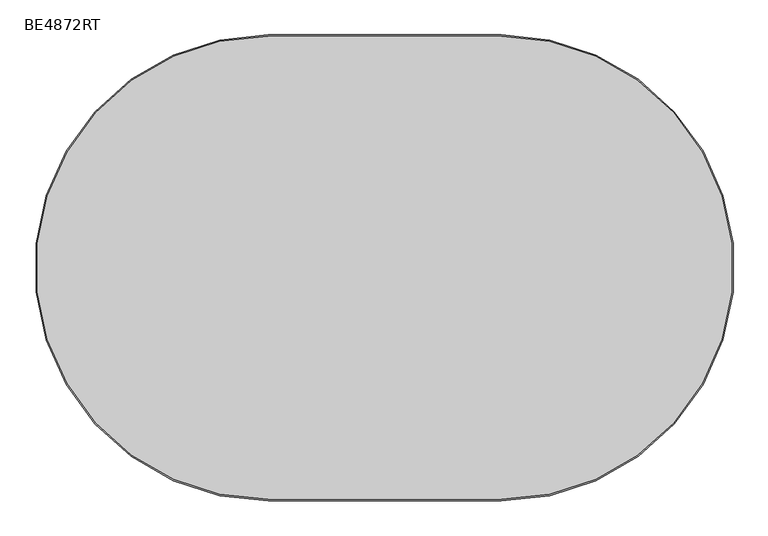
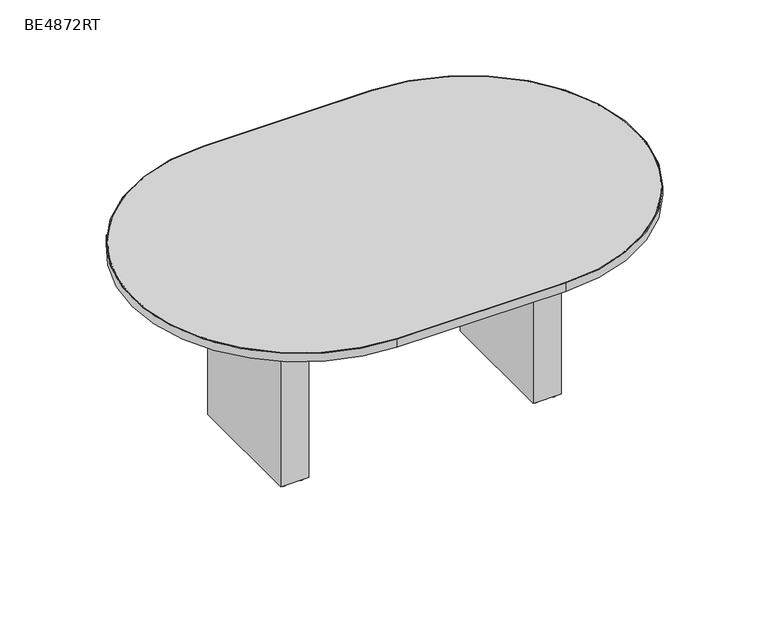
"""IFC4 building model written with IfcOpenShell, lengths in millimetres: furniture geometry, ERG-Beta-Conference_Table-Racetrack : BE4872RT."""

from ifc_helpers import new_model, si_unit, point, frame, frame_2d, origin, origin_with_axes, place, context, project, spatial, polyline, circle_curve, trimmed, segment, composite_curve, outline, extrude, source, transform, mapped, element, save


def be4872rt_7615bdcb(model_context):
    return source(origin(), model_context, "Body", "SweptSolid", [
        extrude(outline(composite_curve([segment(trimmed(circle_curve(frame_2d((968.375, 263.276527)), 9.525), [point((958.85, 263.276527))], [point((977.9, 263.276527))], False, "CARTESIAN"), True, "CONTINUOUS"), segment(trimmed(circle_curve(frame_2d((968.375, 263.276527)), 9.525), [point((977.9, 263.276527))], [point((958.85, 263.276527))], False, "CARTESIAN"), True, "CONTINUOUS")], self_intersect=False)), origin_with_axes(), (0.0, 0.0, 1.0), 9.525),
        extrude(outline(composite_curve([segment(trimmed(circle_curve(frame_2d((1031.875, 263.276527)), 9.525), [point((1022.35, 263.276527))], [point((1041.4, 263.276527))], False, "CARTESIAN"), True, "CONTINUOUS"), segment(trimmed(circle_curve(frame_2d((1031.875, 263.276527)), 9.525), [point((1041.4, 263.276527))], [point((1022.35, 263.276527))], False, "CARTESIAN"), True, "CONTINUOUS")], self_intersect=False)), origin_with_axes(), (0.0, 0.0, 1.0), 9.525),
        extrude(outline(composite_curve([segment(trimmed(circle_curve(frame_2d((968.375, -155.823473)), 9.525), [point((958.85, -155.823473))], [point((977.9, -155.823473))], False, "CARTESIAN"), True, "CONTINUOUS"), segment(trimmed(circle_curve(frame_2d((968.375, -155.823473)), 9.525), [point((977.9, -155.823473))], [point((958.85, -155.823473))], False, "CARTESIAN"), True, "CONTINUOUS")], self_intersect=False)), origin_with_axes(), (0.0, 0.0, 1.0), 9.525),
        extrude(outline(composite_curve([segment(trimmed(circle_curve(frame_2d((1031.875, -155.823473)), 9.525), [point((1022.35, -155.823473))], [point((1041.4, -155.823473))], False, "CARTESIAN"), True, "CONTINUOUS"), segment(trimmed(circle_curve(frame_2d((1031.875, -155.823473)), 9.525), [point((1041.4, -155.823473))], [point((1022.35, -155.823473))], False, "CARTESIAN"), True, "CONTINUOUS")], self_intersect=False)), origin_with_axes(), (0.0, 0.0, 1.0), 9.525),
        extrude(outline(polyline([(1050.925, 282.326527), (1050.925, -174.873473), (949.325, -174.873473), (949.325, 282.326527), (1050.925, 282.326527)])), frame((0.0, 0.0, 9.525), z_axis=(0.0, 0.0, 1.0), x_axis=(1.0, 0.0, 0.0)), (0.0, 0.0, 1.0), 695.3249758),
        extrude(outline(composite_curve([segment(trimmed(circle_curve(frame_2d((53.975, 263.276527)), 9.525), [point((44.45, 263.276527))], [point((63.5, 263.276527))], False, "CARTESIAN"), True, "CONTINUOUS"), segment(trimmed(circle_curve(frame_2d((53.975, 263.276527)), 9.525), [point((63.5, 263.276527))], [point((44.45, 263.276527))], False, "CARTESIAN"), True, "CONTINUOUS")], self_intersect=False)), origin_with_axes(), (0.0, 0.0, 1.0), 9.525),
        extrude(outline(composite_curve([segment(trimmed(circle_curve(frame_2d((117.475, 263.276527)), 9.525), [point((107.95, 263.276527))], [point((127.0, 263.276527))], False, "CARTESIAN"), True, "CONTINUOUS"), segment(trimmed(circle_curve(frame_2d((117.475, 263.276527)), 9.525), [point((127.0, 263.276527))], [point((107.95, 263.276527))], False, "CARTESIAN"), True, "CONTINUOUS")], self_intersect=False)), origin_with_axes(), (0.0, 0.0, 1.0), 9.525),
        extrude(outline(composite_curve([segment(trimmed(circle_curve(frame_2d((53.975, -155.823473)), 9.525), [point((44.45, -155.823473))], [point((63.5, -155.823473))], False, "CARTESIAN"), True, "CONTINUOUS"), segment(trimmed(circle_curve(frame_2d((53.975, -155.823473)), 9.525), [point((63.5, -155.823473))], [point((44.45, -155.823473))], False, "CARTESIAN"), True, "CONTINUOUS")], self_intersect=False)), origin_with_axes(), (0.0, 0.0, 1.0), 9.525),
        extrude(outline(composite_curve([segment(trimmed(circle_curve(frame_2d((117.475, -155.823473)), 9.525), [point((107.95, -155.823473))], [point((127.0, -155.823473))], False, "CARTESIAN"), True, "CONTINUOUS"), segment(trimmed(circle_curve(frame_2d((117.475, -155.823473)), 9.525), [point((127.0, -155.823473))], [point((107.95, -155.823473))], False, "CARTESIAN"), True, "CONTINUOUS")], self_intersect=False)), origin_with_axes(), (0.0, 0.0, 1.0), 9.525),
        extrude(outline(polyline([(136.525, 282.326527), (136.525, -174.873473), (34.925, -174.873473), (34.925, 282.326527), (136.525, 282.326527)])), frame((0.0, 0.0, 9.525), z_axis=(0.0, 0.0, 1.0), x_axis=(1.0, 0.0, 0.0)), (0.0, 0.0, 1.0), 695.3249758),
        extrude(outline(composite_curve([segment(polyline([(847.725, -552.698473), (238.125, -552.698473)]), True, "CONTINUOUS"), segment(trimmed(circle_curve(frame_2d((238.125, 53.726527)), 606.425), [point((238.125, -552.698473))], [point((238.125, 660.151527))], False, "CARTESIAN"), True, "CONTINUOUS"), segment(polyline([(238.125, 660.151527), (847.725, 660.151527)]), True, "CONTINUOUS"), segment(trimmed(circle_curve(frame_2d((847.725, 53.726527)), 606.425), [point((847.725, 660.151527))], [point((847.725, -552.698473))], False, "CARTESIAN"), True, "CONTINUOUS")], self_intersect=False)), frame((0.0, 0.0, 704.85), z_axis=(0.0, 0.0, 1.0), x_axis=(1.0, 0.0, 0.0)), (0.0, 0.0, 1.0), 31.75),
        extrude(outline(composite_curve([segment(polyline([(238.125, 663.326527), (847.725, 663.326527)]), True, "CONTINUOUS"), segment(trimmed(circle_curve(frame_2d((847.725, 53.726527)), 609.6), [point((847.725, 663.326527))], [point((847.725, -555.873473))], False, "CARTESIAN"), True, "CONTINUOUS"), segment(polyline([(847.725, -555.873473), (238.125, -555.873473)]), True, "CONTINUOUS"), segment(trimmed(circle_curve(frame_2d((238.125, 53.726527)), 609.6), [point((238.125, -555.873473))], [point((238.125, 663.326527))], False, "CARTESIAN"), True, "CONTINUOUS")], self_intersect=False), holes=[composite_curve([segment(trimmed(circle_curve(frame_2d((238.125, 53.726527)), 606.425), [point((238.125, 660.151527))], [point((238.125, -552.698473))], True, "CARTESIAN"), True, "CONTINUOUS"), segment(polyline([(238.125, -552.698473), (847.725, -552.698473)]), True, "CONTINUOUS"), segment(trimmed(circle_curve(frame_2d((847.725, 53.726527)), 606.425), [point((847.725, -552.698473))], [point((847.725, 660.151527))], True, "CARTESIAN"), True, "CONTINUOUS"), segment(polyline([(847.725, 660.151527), (238.125, 660.151527)]), True, "CONTINUOUS")], self_intersect=False)]), frame((0.0, 0.0, 704.85), z_axis=(0.0, 0.0, 1.0), x_axis=(1.0, 0.0, 0.0)), (0.0, 0.0, 1.0), 31.75),
    ])


if __name__ == "__main__":
    model = new_model("IFC4")
    model_context = context("Model", 3, world=origin())
    ifc_project = project(units=[si_unit("LENGTHUNIT", "METRE", prefix="MILLI")], contexts=[model_context])
    site = spatial("IfcSite", under=ifc_project)
    building = spatial("IfcBuilding", under=site)
    placement = place(None, origin())
    be4872rt_shape = be4872rt_7615bdcb(model_context)
    element("IfcFurniture", 1, ObjectType="ERG-Beta-Conference_Table-Racetrack : BE4872RT", at=placement, inside=building, context=model_context, shape_type="MappedRepresentation", body=[
        mapped(be4872rt_shape, transform((0.0, 0.0, 0.0), x_axis=(1.0, 0.0, 0.0), y_axis=(0.0, 1.0, 0.0), z_axis=(0.0, 0.0, 1.0))),
    ])
    save(model, "model.ifc")
